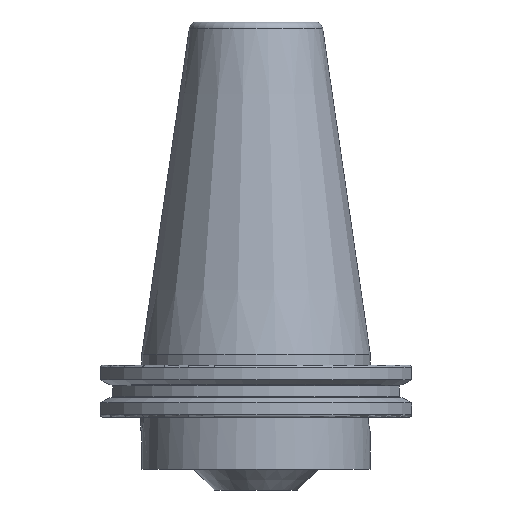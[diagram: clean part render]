
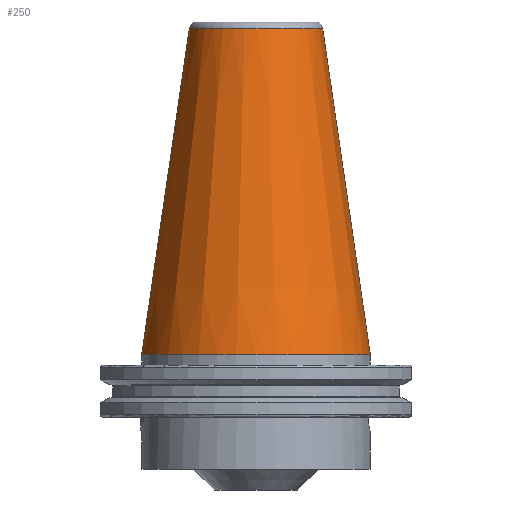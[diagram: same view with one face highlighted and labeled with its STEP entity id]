
A CAD part, left-side view. The second image highlights one B-rep face of the part: STEP entity #250.
In plain terms, the highlighted conical face has half-angle 8.297 degrees and reference radius 34.893 mm.
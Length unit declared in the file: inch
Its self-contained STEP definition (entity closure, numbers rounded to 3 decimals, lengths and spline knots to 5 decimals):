
#114 = EDGE_CURVE ( 'NONE', #1204, #1844, #2462, .T. ) ;
#150 = VERTEX_POINT ( 'NONE', #1657 ) ;
#156 = CARTESIAN_POINT ( 'NONE',  ( 0., -1.37375, 0. ) ) ;
#250 = ADVANCED_FACE ( 'NONE', ( #2560 ), #2313, .T. ) ;
#526 = CARTESIAN_POINT ( 'NONE',  ( 0., 1.37375, 0. ) ) ;
#581 = EDGE_LOOP ( 'NONE', ( #752, #2318, #2791, #2153 ) ) ;
#588 = VERTEX_POINT ( 'NONE', #526 ) ;
#717 = DIRECTION ( 'NONE',  ( 0., 1., 0. ) ) ;
#752 = ORIENTED_EDGE ( 'NONE', *, *, #114, .F. ) ;
#781 = AXIS2_PLACEMENT_3D ( 'NONE', #2812, #1700, #1133 ) ;
#1085 = CARTESIAN_POINT ( 'NONE',  ( 0., 0., 0. ) ) ;
#1133 = DIRECTION ( 'NONE',  ( 0., 1., 0. ) ) ;
#1156 = CARTESIAN_POINT ( 'NONE',  ( 0., -1.37375, 0. ) ) ;
#1204 = VERTEX_POINT ( 'NONE', #1688 ) ;
#1318 = DIRECTION ( 'NONE',  ( 0., 0.144, -0.99 ) ) ;
#1454 = AXIS2_PLACEMENT_3D ( 'NONE', #1085, #2182, #2980 ) ;
#1624 = LINE ( 'NONE', #2686, #2361 ) ;
#1657 = CARTESIAN_POINT ( 'NONE',  ( 0., 0.80165, 3.92299 ) ) ;
#1688 = CARTESIAN_POINT ( 'NONE',  ( 0., -0.80165, 3.92299 ) ) ;
#1700 = DIRECTION ( 'NONE',  ( 0., 0., -1. ) ) ;
#1777 = CARTESIAN_POINT ( 'NONE',  ( 0., 0., 3.92299 ) ) ;
#1844 = VERTEX_POINT ( 'NONE', #156 ) ;
#1858 = VECTOR ( 'NONE', #1939, 39.37008 ) ;
#1919 = EDGE_CURVE ( 'NONE', #1204, #150, #2381, .T. ) ;
#1939 = DIRECTION ( 'NONE',  ( 0., -0.144, -0.99 ) ) ;
#2153 = ORIENTED_EDGE ( 'NONE', *, *, #2676, .F. ) ;
#2182 = DIRECTION ( 'NONE',  ( 0., 0., -1. ) ) ;
#2313 = CONICAL_SURFACE ( 'NONE', #781, 1.37375, 0.145 ) ;
#2318 = ORIENTED_EDGE ( 'NONE', *, *, #1919, .T. ) ;
#2361 = VECTOR ( 'NONE', #1318, 39.37008 ) ;
#2381 = CIRCLE ( 'NONE', #3075, 0.80165 ) ;
#2462 = LINE ( 'NONE', #1156, #1858 ) ;
#2560 = FACE_OUTER_BOUND ( 'NONE', #581, .T. ) ;
#2676 = EDGE_CURVE ( 'NONE', #1844, #588, #2884, .T. ) ;
#2686 = CARTESIAN_POINT ( 'NONE',  ( 0., 1.37375, 0. ) ) ;
#2791 = ORIENTED_EDGE ( 'NONE', *, *, #3089, .T. ) ;
#2812 = CARTESIAN_POINT ( 'NONE',  ( 0., 0., 0. ) ) ;
#2884 = CIRCLE ( 'NONE', #1454, 1.37375 ) ;
#2980 = DIRECTION ( 'NONE',  ( 0., 1., 0. ) ) ;
#3075 = AXIS2_PLACEMENT_3D ( 'NONE', #1777, #3170, #717 ) ;
#3089 = EDGE_CURVE ( 'NONE', #150, #588, #1624, .T. ) ;
#3170 = DIRECTION ( 'NONE',  ( 0., 0., -1. ) ) ;
